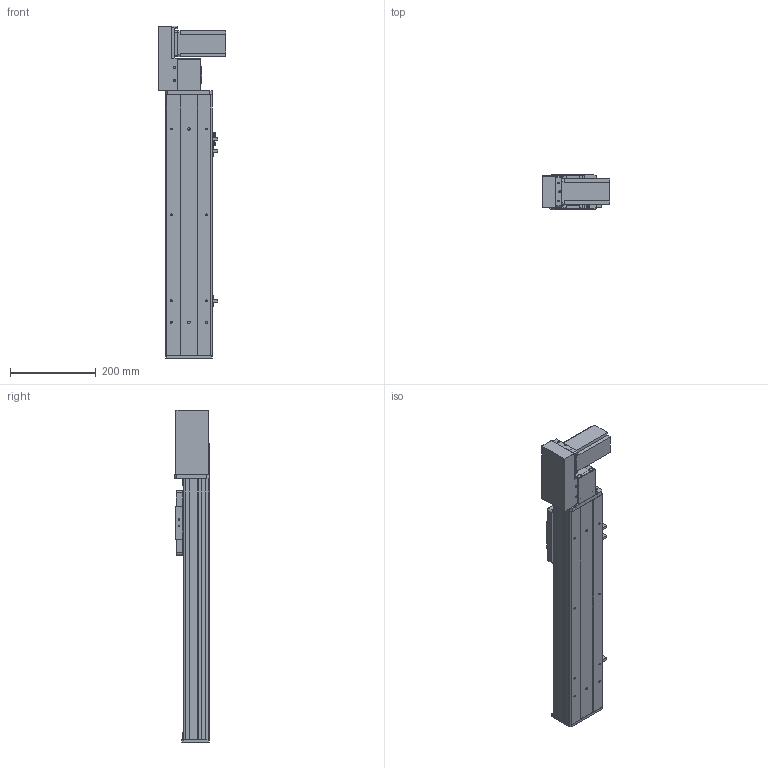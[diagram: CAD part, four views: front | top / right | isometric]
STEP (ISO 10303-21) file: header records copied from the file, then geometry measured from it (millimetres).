
FILE_DESCRIPTION (( 'STEP AP203' ), '1' );
FILE_NAME ('Y10CB-D90-S350-BL-P400W.STEP', '2020-02-15T07:38:46', ( '微软用户' ), ( '微软中国' ), 'SwSTEP 2.0', 'SolidWorks 2017', '' );
FILE_SCHEMA (( 'CONFIG_CONTROL_DESIGN' ));
Length unit declared in the file: millimetre
Products named in the file (18): Y10CB- 掛极耜裔啣-毀---; Y10B--々湍喘謫眊--666; Y10C---詩湍揤啣; Y10B-耜蚾蟀諉啣----; 10CB9-掛极; 0B-萇儂楊擘啣; 10CB-耜裔; san松下电机400不带刹车----; Y135C-陔俋离換覜結え-; 0B-源倛裔啣; Y100-135俋离換覜ん--; 0B-埴倛裔啣; 0CB-雄赽釱---; Y10CB-D90-S350-BL-P400W; Y俋欶BR----; 0Cb-俋欶---; 10CB-詩湍-; Y10B-々湍喘謫眊楊擘啣--
Assembly tree (21 placements, depth 2):
  Y10CB-D90-S350-BL-P400W
    0CB-雄赽釱---
    0Cb-俋欶---
    Y10B-々湍喘謫眊楊擘啣--
    Y10B--々湍喘謫眊--666
    Y10B-耜蚾蟀諉啣----
    0B-萇儂楊擘啣
    san松下电机400不带刹车----
    0B-源倛裔啣
    0B-埴倛裔啣
    Y俋欶BR----
    10CB-詩湍-
    Y10CB- 掛极耜裔啣-毀---  x2
    Y10C---詩湍揤啣  x2
    10CB9-掛极
    10CB-耜裔
    Y135C-陔俋离換覜結え-
    Y100-135俋离換覜ん--  x3
Bounding box: 157.5 x 80.5 x 772.5 mm (x, y, z)
Volume: 2002389.1 mm3; surface area: 840492.2 mm2
Topology: 21 solids, 21 shells, 954 faces, 2523 edges, 1658 vertices
Faces by surface type: plane 473, cylinder 457, cone 24
Entity records: 29404 total; most frequent: CARTESIAN_POINT 5025, DIRECTION 4790, ORIENTED_EDGE 4516, EDGE_CURVE 2258, AXIS2_PLACEMENT_3D 1713, VERTEX_POINT 1484, VECTOR 1364, LINE 1364
